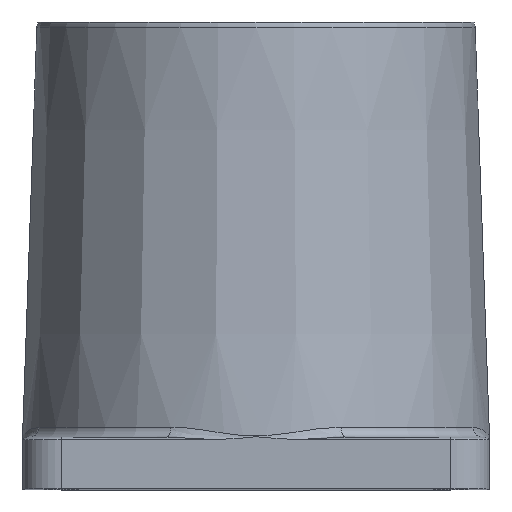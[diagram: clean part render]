
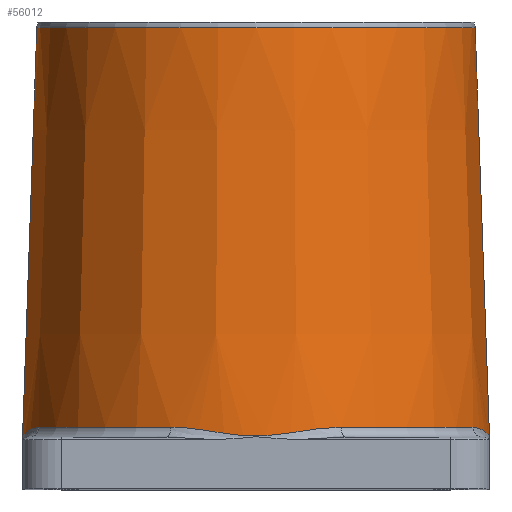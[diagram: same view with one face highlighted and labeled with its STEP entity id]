
A CAD part, top view. The second image highlights one B-rep face of the part: STEP entity #56012.
In plain terms, the highlighted conical face has half-angle 2 degrees and reference radius 45 mm.
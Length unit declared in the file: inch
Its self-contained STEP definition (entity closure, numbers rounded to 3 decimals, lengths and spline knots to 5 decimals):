
#2194=B_SPLINE_CURVE_WITH_KNOTS('',3,(#86775,#86776,#86777,#86778,#86779),
 .UNSPECIFIED.,.F.,.F.,(4,1,4),(0.,0.75753,1.76757),
 .UNSPECIFIED.);
#2196=B_SPLINE_CURVE_WITH_KNOTS('',3,(#86847,#86848,#86849,#86850,#86851,
#86852,#86853,#86854,#86855,#86856),.UNSPECIFIED.,.F.,.F.,(4,1,1,1,1,1,
1,4),(-3.53568,-3.03059,-2.52549,-2.02039,
-1.51529,-1.0102,-0.5051,0.),
 .UNSPECIFIED.);
#2198=B_SPLINE_CURVE_WITH_KNOTS('',3,(#86902,#86903,#86904,#86905,#86906),
 .UNSPECIFIED.,.F.,.F.,(4,1,4),(-1.76763,-0.75756,0.),
 .UNSPECIFIED.);
#2206=B_SPLINE_CURVE_WITH_KNOTS('',3,(#87198,#87199,#87200,#87201,#87202,
#87203,#87204,#87205),.UNSPECIFIED.,.F.,.F.,(4,1,1,2,4),(0.,0.65961,
0.98942,1.64903,1.65135),.UNSPECIFIED.);
#2207=B_SPLINE_CURVE_WITH_KNOTS('',3,(#87206,#87207,#87208,#87209,#87210,
#87211,#87212,#87213),.UNSPECIFIED.,.F.,.F.,(4,2,1,1,4),(-0.00232,
0.,0.98942,1.31923,1.64903),.UNSPECIFIED.);
#3191=CONICAL_SURFACE('',#59160,1.77165,0.035);
#5263=FACE_OUTER_BOUND('',#8408,.T.);
#8408=EDGE_LOOP('',(#43062,#43063,#43064,#43065,#43066,#43067,#43068,#43069,
#43070,#43071,#43072,#43073,#43074));
#10230=CIRCLE('',#58284,1.70848);
#10307=CIRCLE('',#59131,1.769);
#10309=CIRCLE('',#59134,1.769);
#10324=CIRCLE('',#59161,1.66313);
#13547=LINE('',#87190,#18749);
#13549=LINE('',#87195,#18751);
#13550=LINE('',#87197,#18752);
#18749=VECTOR('',#66940,0.3937);
#18751=VECTOR('',#66946,1.77165);
#18752=VECTOR('',#66947,0.3937);
#22246=VERTEX_POINT('',#77453);
#22247=VERTEX_POINT('',#77455);
#23851=VERTEX_POINT('',#86739);
#23853=VERTEX_POINT('',#86773);
#23857=VERTEX_POINT('',#86844);
#23858=VERTEX_POINT('',#86846);
#23862=VERTEX_POINT('',#86899);
#23863=VERTEX_POINT('',#86901);
#23918=VERTEX_POINT('',#87189);
#23919=VERTEX_POINT('',#87193);
#23920=VERTEX_POINT('',#87196);
#27995=EDGE_CURVE('',#22246,#22247,#10230,.T.);
#30571=EDGE_CURVE('',#23853,#23851,#2194,.T.);
#30578=EDGE_CURVE('',#23857,#23858,#2196,.T.);
#30587=EDGE_CURVE('',#23862,#23863,#2198,.T.);
#30649=EDGE_CURVE('',#23863,#23857,#10307,.T.);
#30651=EDGE_CURVE('',#23858,#23853,#10309,.T.);
#30679=EDGE_CURVE('',#23851,#23918,#13547,.T.);
#30681=EDGE_CURVE('',#23919,#23919,#10324,.T.);
#30682=EDGE_CURVE('',#23919,#23918,#13549,.T.);
#30683=EDGE_CURVE('',#23862,#23920,#13550,.T.);
#30684=EDGE_CURVE('',#22247,#23920,#2206,.T.);
#30685=EDGE_CURVE('',#23918,#22246,#2207,.T.);
#43062=ORIENTED_EDGE('',*,*,#30681,.F.);
#43063=ORIENTED_EDGE('',*,*,#30682,.T.);
#43064=ORIENTED_EDGE('',*,*,#30679,.F.);
#43065=ORIENTED_EDGE('',*,*,#30571,.F.);
#43066=ORIENTED_EDGE('',*,*,#30651,.F.);
#43067=ORIENTED_EDGE('',*,*,#30578,.F.);
#43068=ORIENTED_EDGE('',*,*,#30649,.F.);
#43069=ORIENTED_EDGE('',*,*,#30587,.F.);
#43070=ORIENTED_EDGE('',*,*,#30683,.T.);
#43071=ORIENTED_EDGE('',*,*,#30684,.F.);
#43072=ORIENTED_EDGE('',*,*,#27995,.F.);
#43073=ORIENTED_EDGE('',*,*,#30685,.F.);
#43074=ORIENTED_EDGE('',*,*,#30682,.F.);
#56012=ADVANCED_FACE('',(#5263),#3191,.T.);
#58284=AXIS2_PLACEMENT_3D('',#77456,#63200,#63201);
#59131=AXIS2_PLACEMENT_3D('',#87099,#66871,#66872);
#59134=AXIS2_PLACEMENT_3D('',#87102,#66877,#66878);
#59160=AXIS2_PLACEMENT_3D('',#87192,#66942,#66943);
#59161=AXIS2_PLACEMENT_3D('',#87194,#66944,#66945);
#63200=DIRECTION('center_axis',(0.,-1.,0.));
#63201=DIRECTION('ref_axis',(0.,0.,
-1.));
#66871=DIRECTION('center_axis',(0.,-1.,0.));
#66872=DIRECTION('ref_axis',(0.707,0.,0.707));
#66877=DIRECTION('center_axis',(0.,-1.,0.));
#66878=DIRECTION('ref_axis',(-0.707,0.,0.707));
#66940=DIRECTION('',(0.035,0.999,0.));
#66942=DIRECTION('center_axis',(0.,-1.,0.));
#66943=DIRECTION('ref_axis',(1.,0.,0.));
#66944=DIRECTION('center_axis',(0.,1.,0.));
#66945=DIRECTION('ref_axis',(0.,0.,
-1.));
#66946=DIRECTION('',(-0.035,-0.999,0.));
#66947=DIRECTION('',(-0.035,0.999,0.));
#77453=CARTESIAN_POINT('',(-2.21017,-1.16859,-0.60379));
#77455=CARTESIAN_POINT('',(0.9863,-1.16859,-0.60379));
#77456=CARTESIAN_POINT('Origin',(-0.61193,-1.16859,0.));
#86739=CARTESIAN_POINT('',(-2.38334,-2.97051,0.));
#86773=CARTESIAN_POINT('',(-2.25855,-2.90156,0.64655));
#86775=CARTESIAN_POINT('Ctrl Pts',(-2.25855,-2.90156,
0.64655));
#86776=CARTESIAN_POINT('Ctrl Pts',(-2.29333,-2.90156,
0.55795));
#86777=CARTESIAN_POINT('Ctrl Pts',(-2.35816,-2.92864,
0.3463));
#86778=CARTESIAN_POINT('Ctrl Pts',(-2.38334,-2.97051,
0.12691));
#86779=CARTESIAN_POINT('Ctrl Pts',(-2.38334,-2.97051,
0.));
#86844=CARTESIAN_POINT('',(0.03461,-2.90156,1.64661));
#86846=CARTESIAN_POINT('',(-1.25848,-2.90156,1.64661));
#86847=CARTESIAN_POINT('Ctrl Pts',(0.03461,-2.90156,
1.64661));
#86848=CARTESIAN_POINT('Ctrl Pts',(-0.02446,-2.90156,
1.66981));
#86849=CARTESIAN_POINT('Ctrl Pts',(-0.14488,-2.91245,
1.71011));
#86850=CARTESIAN_POINT('Ctrl Pts',(-0.32858,-2.94206,
1.75093));
#86851=CARTESIAN_POINT('Ctrl Pts',(-0.5163,-2.97138,
1.77227));
#86852=CARTESIAN_POINT('Ctrl Pts',(-0.70761,-2.97158,
1.77228));
#86853=CARTESIAN_POINT('Ctrl Pts',(-0.89529,-2.94221,1.75095));
#86854=CARTESIAN_POINT('Ctrl Pts',(-1.07897,-2.91256,1.71013));
#86855=CARTESIAN_POINT('Ctrl Pts',(-1.19941,-2.90156,
1.66981));
#86856=CARTESIAN_POINT('Ctrl Pts',(-1.25848,-2.90156,
1.64661));
#86899=CARTESIAN_POINT('',(1.15948,-2.97051,0.));
#86901=CARTESIAN_POINT('',(1.03468,-2.90156,0.64655));
#86902=CARTESIAN_POINT('Ctrl Pts',(1.15948,-2.97051,0.));
#86903=CARTESIAN_POINT('Ctrl Pts',(1.15948,-2.97051,0.12692));
#86904=CARTESIAN_POINT('Ctrl Pts',(1.13429,-2.92864,0.34633));
#86905=CARTESIAN_POINT('Ctrl Pts',(1.06947,-2.90156,0.55795));
#86906=CARTESIAN_POINT('Ctrl Pts',(1.03468,-2.90156,0.64655));
#87099=CARTESIAN_POINT('Origin',(-0.61193,-2.90156,0.));
#87102=CARTESIAN_POINT('Origin',(-0.61193,-2.90156,0.));
#87189=CARTESIAN_POINT('',(-2.3244,-1.28258,0.));
#87190=CARTESIAN_POINT('',(-2.38359,-2.97755,0.));
#87192=CARTESIAN_POINT('Origin',(-0.61193,-2.97755,0.));
#87193=CARTESIAN_POINT('',(-2.27506,0.13016,0.));
#87194=CARTESIAN_POINT('Origin',(-0.61193,0.13016,0.));
#87195=CARTESIAN_POINT('',(-2.38359,-2.97755,0.));
#87196=CARTESIAN_POINT('',(1.10053,-1.28258,0.));
#87197=CARTESIAN_POINT('',(1.15972,-2.97755,0.));
#87198=CARTESIAN_POINT('Ctrl Pts',(0.9863,-1.16859,
-0.60379));
#87199=CARTESIAN_POINT('Ctrl Pts',(1.01587,-1.16859,-0.52552));
#87200=CARTESIAN_POINT('Ctrl Pts',(1.05194,-1.18506,-0.40533));
#87201=CARTESIAN_POINT('Ctrl Pts',(1.08989,-1.22834,-0.20372));
#87202=CARTESIAN_POINT('Ctrl Pts',(1.09973,-1.26073,-0.08189));
#87203=CARTESIAN_POINT('Ctrl Pts',(1.10053,-1.28243,-0.00057));
#87204=CARTESIAN_POINT('Ctrl Pts',(1.10053,-1.2825,-0.00029));
#87205=CARTESIAN_POINT('Ctrl Pts',(1.10053,-1.28258,0.));
#87206=CARTESIAN_POINT('Ctrl Pts',(-2.3244,-1.28258,0.));
#87207=CARTESIAN_POINT('Ctrl Pts',(-2.32439,-1.2825,
-0.00029));
#87208=CARTESIAN_POINT('Ctrl Pts',(-2.32439,-1.28243,
-0.00057));
#87209=CARTESIAN_POINT('Ctrl Pts',(-2.32319,-1.24996,
-0.12241));
#87210=CARTESIAN_POINT('Ctrl Pts',(-2.30441,-1.20667,
-0.28485));
#87211=CARTESIAN_POINT('Ctrl Pts',(-2.25184,-1.17434,
-0.4853));
#87212=CARTESIAN_POINT('Ctrl Pts',(-2.22495,-1.16859,
-0.56465));
#87213=CARTESIAN_POINT('Ctrl Pts',(-2.21017,-1.16859,
-0.60379));
